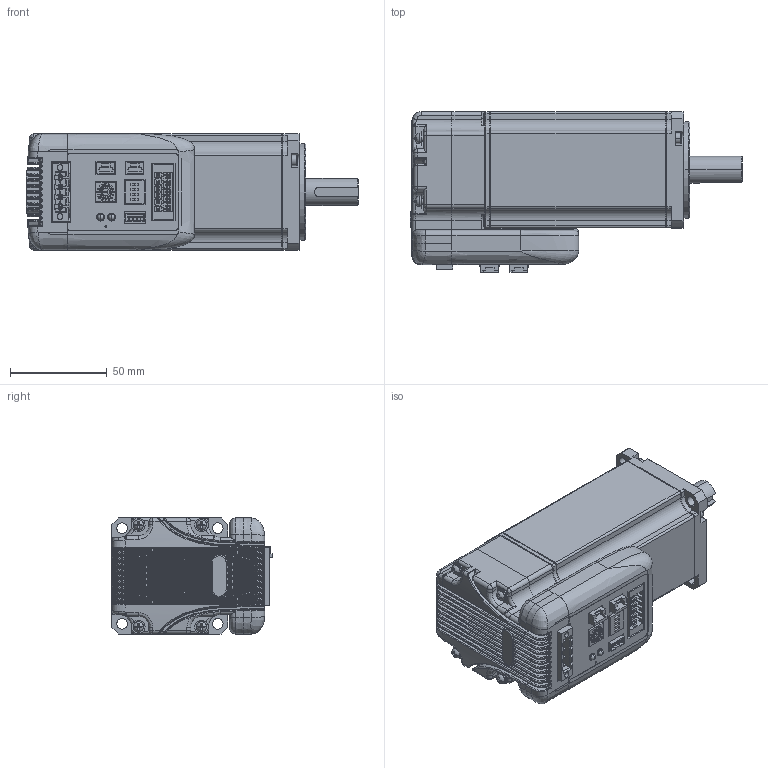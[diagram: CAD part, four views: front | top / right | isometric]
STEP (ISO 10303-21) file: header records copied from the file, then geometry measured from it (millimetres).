
FILE_DESCRIPTION((''),'2;1');
FILE_NAME('ISV2-6020_ASM','2021-07-28T15:39:42',('chensf'),(''),'CREO PARAMETRIC BY PTC INC, 2019010','CREO PARAMETRIC BY PTC INC, 2019010','');
FILE_SCHEMA(('CONFIG_CONTROL_DESIGN','GEOMETRIC_VALIDATION_PROPERTIES_MIM'));
Products named in the file (40): MANIFOLD_SOLID_BREP_169; 60_200W_8_ASM_ASM_ASM_ASM; PRT0004_7_40; PRT0005_3_11; PRT0004_36; HEADER_2_0_4X_3; XB_3; PB_4P_5; B04B-ZESK-1D_2; PHOENIX______2__6_5; CONNECTOR_5MMCLOSED4PIN_MALE_1; PCB_ASM_12_ASM_ASM_ASM_ASM; PRT0003_46; M3X8_GB818_9_1; D3_GB9074_26_11_1; D3_GB9074_24_14_1; M3X8_GB9074_4_ASM_1_ASM_ASM_ASM_ASM; ISV2HG_202011123_4; ASM0003_ASM_60_ASM_ASM_ASM_ASM; PRT0002; ASM0001_ASM_ASM_ASM; ISV2_6020V48C_B_ALL_ASM_ASM; HEXAGON_SOCKET_HEAD_CAP_SC-3403; CROSS_RECESSED_CTSK_WOOD_S-3469; _2-SOLID1_1_30001; HEXAGON_SOCKET_HEAD_CAP_SC-3706; _2-SOLID1_1_2_30001; ISV2-38890001; CROSS_RECESSED_CTSK_WOOD_S-4074; ISV2-152920001; ISV2-1_-1-SOLI0001; HEXAGON_SOCKET_HEAD_CAP_S-27201; CROSS_RECESSED_CTSK_WOOD_-27311; _1-SOLID1_1_50001; 26-1-SOLID1_1_2_3_0001; CROSS_RECESSED_CTSK_WOOD_-27913; HEXAGON_SOCKET_HEAD_CAP_S-28034; ISV2-6040V48C-B_1_ASM; ISV2-6040V48C-B_ASM; ISV2-6020_ASM
Assembly tree (43 placements, depth 6):
  ISV2-6020_ASM
    ISV2_6020V48C_B_ALL_ASM_ASM
      ASM0001_ASM_ASM_ASM
        ASM0003_ASM_60_ASM_ASM_ASM_ASM
          60_200W_8_ASM_ASM_ASM_ASM
            MANIFOLD_SOLID_BREP_169
          PCB_ASM_12_ASM_ASM_ASM_ASM
            PRT0004_7_40
            PRT0005_3_11
            PRT0004_36
            HEADER_2_0_4X_3
            XB_3
            PB_4P_5
            B04B-ZESK-1D_2  x2
            PHOENIX______2__6_5
            CONNECTOR_5MMCLOSED4PIN_MALE_1
          PRT0003_46
          M3X8_GB9074_4_ASM_1_ASM_ASM_ASM_ASM  x4
            M3X8_GB818_9_1
            D3_GB9074_26_11_1
            D3_GB9074_24_14_1
          ISV2HG_202011123_4
        PRT0002
    ISV2-6040V48C-B_ASM
      ISV2-6040V48C-B_1_ASM
        HEXAGON_SOCKET_HEAD_CAP_SC-3403
        CROSS_RECESSED_CTSK_WOOD_S-3469
        _2-SOLID1_1_30001
        HEXAGON_SOCKET_HEAD_CAP_SC-3706
        _2-SOLID1_1_2_30001
        ISV2-38890001
        CROSS_RECESSED_CTSK_WOOD_S-4074
        ISV2-152920001
        ISV2-1_-1-SOLI0001
        HEXAGON_SOCKET_HEAD_CAP_S-27201
        CROSS_RECESSED_CTSK_WOOD_-27311
        _1-SOLID1_1_50001
        26-1-SOLID1_1_2_3_0001
        CROSS_RECESSED_CTSK_WOOD_-27913
        HEXAGON_SOCKET_HEAD_CAP_S-28034
Bounding box: 171.7 x 82.9 x 60 mm (x, y, z)
Volume: 494094.3 mm3; surface area: 189246.8 mm2
Topology: 41 solids, 42 shells, 3957 faces, 10316 edges, 6494 vertices
Faces by surface type: plane 2137, cylinder 959, cone 357, bspline 232, extrusion 162, torus 84, sphere 20, revolution 6
Entity records: 146905 total; most frequent: CARTESIAN_POINT 43929, ORIENTED_EDGE 19416, DIRECTION 17656, EDGE_CURVE 9708, VECTOR 6384, LINE 6222, VERTEX_POINT 6172, AXIS2_PLACEMENT_3D 5633
